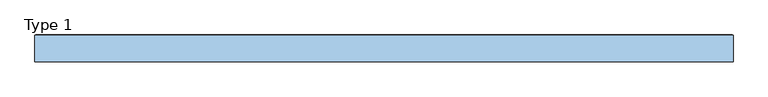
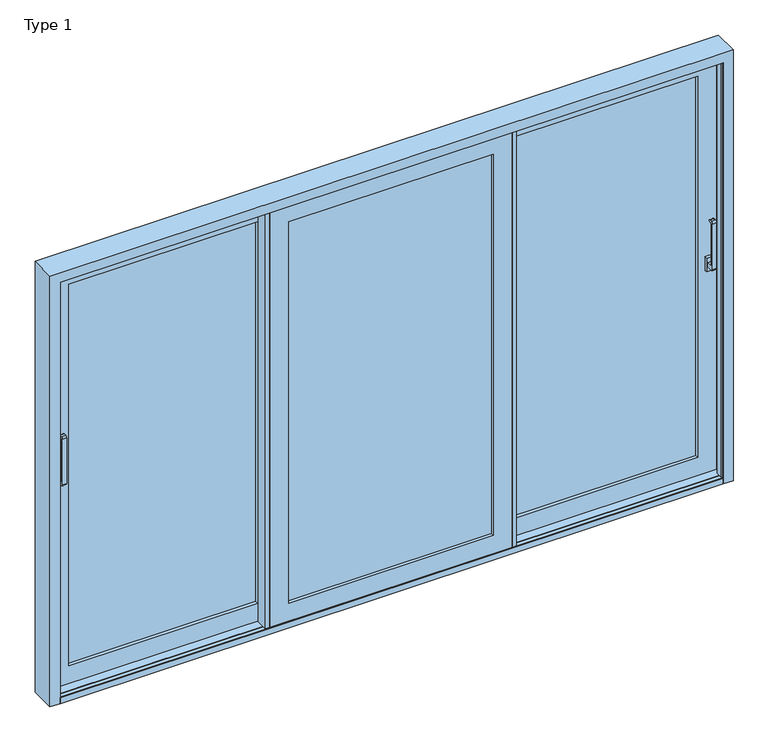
"""IFC4 building model written with IfcOpenShell, lengths in millimetres: window geometry, ETEM_E50_Triple_Lift_Sliding-Fixed-Sliding_FR : Type 1."""

from ifc_helpers import new_model, si_unit, point, frame, frame_2d, origin, place, context, project, spatial, polyline, circle_curve, trimmed, segment, composite_curve, outline, extrude, faceted_brep, source, transform, mapped, element, save


def type_1_401ada22(model_context):
    return source(origin(), model_context, "Body", "SolidModel", [
        extrude(outline(composite_curve([segment(polyline([(36.3481944, 1090.0), (4.7745096, 1090.0)]), True, "CONTINUOUS"), segment(trimmed(circle_curve(frame_2d((4.7745096, 1098.4263152)), 8.4263152), [point((4.7745096, 1090.0))], [point((-3.6518056, 1098.4263152))], False, "CARTESIAN"), True, "CONTINUOUS"), segment(polyline([(-3.6518056, 1098.4263152), (-3.6518056, 1331.5736848)]), True, "CONTINUOUS"), segment(trimmed(circle_curve(frame_2d((4.7745096, 1331.5736848)), 8.4263152), [point((-3.6518056, 1331.5736848))], [point((4.7745096, 1340.0))], False, "CARTESIAN"), True, "CONTINUOUS"), segment(polyline([(4.7745096, 1340.0), (16.3481944, 1340.0)]), True, "CONTINUOUS"), segment(trimmed(circle_curve(frame_2d((16.3481944, 1335.0)), 5.0), [point((16.3481944, 1340.0))], [point((16.3481944, 1330.0))], False, "CARTESIAN"), True, "CONTINUOUS"), segment(polyline([(16.3481944, 1330.0), (9.8837283, 1330.0)]), True, "CONTINUOUS"), segment(trimmed(circle_curve(frame_2d((9.8837283, 1326.4644661)), 3.5355339), [point((9.8837283, 1330.0))], [point((6.3481944, 1326.4644661))], True, "CARTESIAN"), True, "CONTINUOUS"), segment(polyline([(6.3481944, 1326.4644661), (6.3481944, 1113.5355339)]), True, "CONTINUOUS"), segment(trimmed(circle_curve(frame_2d((9.8837283, 1113.5355339)), 3.5355339), [point((6.3481944, 1113.5355339))], [point((9.8837283, 1110.0))], True, "CARTESIAN"), True, "CONTINUOUS"), segment(polyline([(9.8837283, 1110.0), (36.3481944, 1110.0), (36.3481944, 1090.0)]), True, "CONTINUOUS")], self_intersect=False)), frame((1559.999965, 0.0, 0.0), z_axis=(1.0, 0.0, 0.0), x_axis=(0.0, 1.0, 0.0)), (0.0, 0.0, 1.0), 20.0),
        extrude(outline(polyline([(1554.999965, 36.3481944), (1554.999965, 49.3481944), (1584.999965, 49.3481944), (1584.999965, 36.3481944), (1554.999965, 36.3481944)])), frame((0.0, 0.0, 1065.0), z_axis=(0.0, 0.0, 1.0), x_axis=(1.0, 0.0, 0.0)), (0.0, 0.0, 1.0), 70.0),
        extrude(outline(composite_curve([segment(polyline([(36.3481944, 1090.0), (4.7745096, 1090.0)]), True, "CONTINUOUS"), segment(trimmed(circle_curve(frame_2d((4.7745096, 1098.4263152)), 8.4263152), [point((4.7745096, 1090.0))], [point((-3.6518056, 1098.4263152))], False, "CARTESIAN"), True, "CONTINUOUS"), segment(polyline([(-3.6518056, 1098.4263152), (-3.6518056, 1331.5736848)]), True, "CONTINUOUS"), segment(trimmed(circle_curve(frame_2d((4.7745096, 1331.5736848)), 8.4263152), [point((-3.6518056, 1331.5736848))], [point((4.7745096, 1340.0))], False, "CARTESIAN"), True, "CONTINUOUS"), segment(polyline([(4.7745096, 1340.0), (16.3481944, 1340.0)]), True, "CONTINUOUS"), segment(trimmed(circle_curve(frame_2d((16.3481944, 1335.0)), 5.0), [point((16.3481944, 1340.0))], [point((16.3481944, 1330.0))], False, "CARTESIAN"), True, "CONTINUOUS"), segment(polyline([(16.3481944, 1330.0), (9.8837283, 1330.0)]), True, "CONTINUOUS"), segment(trimmed(circle_curve(frame_2d((9.8837283, 1326.4644661)), 3.5355339), [point((9.8837283, 1330.0))], [point((6.3481944, 1326.4644661))], True, "CARTESIAN"), True, "CONTINUOUS"), segment(polyline([(6.3481944, 1326.4644661), (6.3481944, 1113.5355339)]), True, "CONTINUOUS"), segment(trimmed(circle_curve(frame_2d((9.8837283, 1113.5355339)), 3.5355339), [point((6.3481944, 1113.5355339))], [point((9.8837283, 1110.0))], True, "CARTESIAN"), True, "CONTINUOUS"), segment(polyline([(9.8837283, 1110.0), (36.3481944, 1110.0), (36.3481944, 1090.0)]), True, "CONTINUOUS")], self_intersect=False)), frame((-1579.999965, 0.0, 0.0), z_axis=(1.0, 0.0, 0.0), x_axis=(0.0, 1.0, 0.0)), (0.0, 0.0, 1.0), 20.0),
        extrude(outline(polyline([(-1584.999965, 36.3481944), (-1584.999965, 49.3481944), (-1554.999965, 49.3481944), (-1554.999965, 36.3481944), (-1584.999965, 36.3481944)])), frame((0.0, 0.0, 1065.0), z_axis=(0.0, 0.0, 1.0), x_axis=(1.0, 0.0, 0.0)), (0.0, 0.0, 1.0), 70.0),
        faceted_brep([(514.5, 94.6481944, 2160.5), (514.5, 99.3481944, 2160.5), (514.5, 99.3481944, 29.970192), (514.5, 94.6481944, 29.970192), (1610.499965, 99.3481944, 2160.5), (1610.499965, 99.3481944, 29.970192), (606.0, 99.3481944, 121.470192), (1518.999965, 99.3481944, 121.470192), (1518.999965, 99.3481944, 2069.0), (606.0, 99.3481944, 2069.0), (1610.499965, 94.6481944, 29.970192), (1610.499965, 94.6481944, 2160.5), (543.7, 94.6481944, 2131.3), (1581.299965, 94.6481944, 2131.3), (1581.299965, 94.6481944, 59.170192), (543.7, 94.6481944, 59.170192), (543.7, 54.0481944, 2131.3), (543.7, 54.0481944, 59.170192), (1581.299965, 54.0481944, 59.170192), (514.5, 54.0481944, 2160.5), (1610.499965, 54.0481944, 2160.5), (1610.499965, 54.0481944, 29.970192), (514.5, 54.0481944, 29.970192), (1581.299965, 54.0481944, 2131.3), (514.5, 49.3481944, 2160.5), (514.5, 49.3481944, 29.970192), (1610.499965, 49.3481944, 29.970192), (1610.499965, 49.3481944, 2160.5), (606.0, 49.3481944, 2069.0), (1518.999965, 49.3481944, 2069.0), (1518.999965, 49.3481944, 121.470192), (606.0, 49.3481944, 121.470192)], [[[0, 1, 2, 3]], [[1, 4, 5, 2], [6, 7, 8, 9]], [[3, 2, 5, 10]], [[3, 10, 11, 0], [12, 13, 14, 15]], [[16, 12, 15, 17]], [[17, 15, 14, 18]], [[19, 20, 21, 22], [17, 18, 23, 16]], [[24, 19, 22, 25]], [[25, 22, 21, 26]], [[25, 26, 27, 24], [28, 29, 30, 31]], [[9, 28, 31, 6]], [[6, 31, 30, 7]], [[10, 5, 4, 11]], [[18, 14, 13, 23]], [[26, 21, 20, 27]], [[7, 30, 29, 8]], [[11, 4, 1, 0]], [[23, 13, 12, 16]], [[27, 20, 19, 24]], [[8, 29, 28, 9]]]),
        extrude(outline(polyline([(606.0, -15.6518056), (585.5, -15.6518056), (585.5, 45.3481944), (606.0, 45.3481944), (606.0, -15.6518056)])), frame((0.0, 0.0, 29.970192), z_axis=(0.0, 0.0, 1.0), x_axis=(1.0, 0.0, 0.0)), (0.0, 0.0, 1.0), 2130.529808),
        extrude(outline(polyline([(494.0, 99.3481944), (514.5, 99.3481944), (514.5, 38.3481944), (494.0, 38.3481944), (494.0, 99.3481944)])), frame((0.0, 0.0, 29.970192), z_axis=(0.0, 0.0, 1.0), x_axis=(1.0, 0.0, 0.0)), (0.0, 0.0, 1.0), 2130.529808),
        extrude(outline(polyline([(606.0, 91.3481944), (1518.999965, 91.3481944), (1518.999965, 86.3481944), (606.0, 86.3481944), (606.0, 91.3481944)])), frame((0.0, 0.0, 121.470192), z_axis=(0.0, 0.0, 1.0), x_axis=(1.0, 0.0, 0.0)), (0.0, 0.0, 1.0), 1947.529808),
        extrude(outline(polyline([(606.0, 70.3481944), (1518.999965, 70.3481944), (1518.999965, 65.3481944), (606.0, 65.3481944), (606.0, 70.3481944)])), frame((0.0, 0.0, 121.470192), z_axis=(0.0, 0.0, 1.0), x_axis=(1.0, 0.0, 0.0)), (0.0, 0.0, 1.0), 1947.529808),
        faceted_brep([(-606.0, 49.3481944, 2069.0), (-606.0, 99.3481944, 2069.0), (-606.0, 99.3481944, 121.470192), (-606.0, 49.3481944, 121.470192), (-1518.999965, 99.3481944, 121.470192), (-1518.999965, 49.3481944, 121.470192), (-1610.499965, 99.3481944, 29.970192), (-1610.499965, 99.3481944, 2160.5), (-514.5, 99.3481944, 2160.5), (-514.5, 99.3481944, 29.970192), (-1518.999965, 99.3481944, 2069.0), (-1518.999965, 49.3481944, 2069.0), (-514.5, 49.3481944, 29.970192), (-514.5, 49.3481944, 2160.5), (-1610.499965, 49.3481944, 2160.5), (-1610.499965, 49.3481944, 29.970192), (-514.5, 54.0481944, 2160.5), (-514.5, 54.0481944, 29.970192), (-1610.499965, 54.0481944, 29.970192), (-1610.499965, 54.0481944, 2160.5), (-543.7, 54.0481944, 59.170192), (-543.7, 54.0481944, 2131.3), (-1581.299965, 54.0481944, 2131.3), (-1581.299965, 54.0481944, 59.170192), (-543.7, 94.6481944, 2131.3), (-543.7, 94.6481944, 59.170192), (-1581.299965, 94.6481944, 59.170192), (-1581.299965, 94.6481944, 2131.3), (-514.5, 94.6481944, 29.970192), (-514.5, 94.6481944, 2160.5), (-1610.499965, 94.6481944, 2160.5), (-1610.499965, 94.6481944, 29.970192)], [[[0, 1, 2, 3]], [[3, 2, 4, 5]], [[6, 7, 8, 9], [2, 1, 10, 4]], [[5, 4, 10, 11]], [[12, 13, 14, 15], [5, 11, 0, 3]], [[16, 13, 12, 17]], [[17, 12, 15, 18]], [[18, 15, 14, 19]], [[18, 19, 16, 17], [20, 21, 22, 23]], [[24, 21, 20, 25]], [[25, 20, 23, 26]], [[26, 23, 22, 27]], [[28, 29, 30, 31], [26, 27, 24, 25]], [[8, 29, 28, 9]], [[9, 28, 31, 6]], [[6, 31, 30, 7]], [[11, 10, 1, 0]], [[19, 14, 13, 16]], [[27, 22, 21, 24]], [[7, 30, 29, 8]]]),
        extrude(outline(polyline([(-494.0, 26.3481944), (494.0, 26.3481944), (494.0, 21.3481944), (-494.0, 21.3481944), (-494.0, 26.3481944)])), frame((0.0, 0.0, 121.470192), z_axis=(0.0, 0.0, 1.0), x_axis=(1.0, 0.0, 0.0)), (0.0, 0.0, 1.0), 1947.529808),
        extrude(outline(polyline([(-494.0, 5.3481944), (494.0, 5.3481944), (494.0, 0.3481944), (-494.0, 0.3481944), (-494.0, 5.3481944)])), frame((0.0, 0.0, 121.470192), z_axis=(0.0, 0.0, 1.0), x_axis=(1.0, 0.0, 0.0)), (0.0, 0.0, 1.0), 1947.529808),
        faceted_brep([(494.0, -15.6518056, 2069.0), (494.0, 34.3481944, 2069.0), (494.0, 34.3481944, 121.470192), (494.0, -15.6518056, 121.470192), (-494.0, 34.3481944, 121.470192), (-494.0, -15.6518056, 121.470192), (-585.5, 34.3481944, 29.970192), (-585.5, 34.3481944, 2160.5), (585.5, 34.3481944, 2160.5), (585.5, 34.3481944, 29.970192), (-494.0, 34.3481944, 2069.0), (-494.0, -15.6518056, 2069.0), (585.5, -15.6518056, 29.970192), (585.5, -15.6518056, 2160.5), (-585.5, -15.6518056, 2160.5), (-585.5, -15.6518056, 29.970192), (585.5, -10.9518056, 2160.5), (585.5, -10.9518056, 29.970192), (-585.5, -10.9518056, 29.970192), (-585.5, -10.9518056, 2160.5), (556.3, -10.9518056, 59.170192), (556.3, -10.9518056, 2131.3), (-556.3, -10.9518056, 2131.3), (-556.3, -10.9518056, 59.170192), (556.3, 29.6481944, 2131.3), (556.3, 29.6481944, 59.170192), (-556.3, 29.6481944, 59.170192), (-556.3, 29.6481944, 2131.3), (585.5, 29.6481944, 29.970192), (585.5, 29.6481944, 2160.5), (-585.5, 29.6481944, 2160.5), (-585.5, 29.6481944, 29.970192)], [[[0, 1, 2, 3]], [[3, 2, 4, 5]], [[6, 7, 8, 9], [2, 1, 10, 4]], [[5, 4, 10, 11]], [[12, 13, 14, 15], [5, 11, 0, 3]], [[16, 13, 12, 17]], [[17, 12, 15, 18]], [[18, 15, 14, 19]], [[18, 19, 16, 17], [20, 21, 22, 23]], [[24, 21, 20, 25]], [[25, 20, 23, 26]], [[26, 23, 22, 27]], [[28, 29, 30, 31], [26, 27, 24, 25]], [[8, 29, 28, 9]], [[9, 28, 31, 6]], [[6, 31, 30, 7]], [[11, 10, 1, 0]], [[19, 14, 13, 16]], [[27, 22, 21, 24]], [[7, 30, 29, 8]]]),
        faceted_brep([(1601.5, 105.0, 0.0), (1601.5, 101.4, 0.0), (1601.5, 101.4, 2151.5), (1601.5, 105.0, 2151.5), (-1601.5, 105.0, 0.0), (-1646.5, 105.0, 0.0), (-1646.5, 105.0, 2196.5), (1646.5, 105.0, 2196.5), (1646.5, 105.0, 0.0), (-1601.5, 105.0, 2151.5), (-1628.2, 101.4, 0.0), (-1601.5, 101.4, 0.0), (-1601.5, 101.4, 2151.5), (1628.2, 101.4, 0.0), (1628.2, 101.4, 2178.2), (-1628.2, 101.4, 2178.2), (-1650.0, 103.5481944, 0.0), (-1650.0, -21.2518056, 0.0), (-1650.0, -21.2518056, 2200.0), (-1650.0, 103.5481944, 2200.0), (1650.0, -21.2518056, 0.0), (1650.0, 103.5481944, 0.0), (1650.0, 103.5481944, 2200.0), (1650.0, -21.2518056, 2200.0), (1628.2, 78.8481944, 0.0), (1628.2, 78.8481944, 2178.2), (-1628.2, 78.8481944, 2178.2), (-1628.2, 78.8481944, 0.0), (1609.5, 78.8481944, 0.0), (1609.5, 90.3481944, 0.0), (1609.5, 90.3481944, 2159.5), (1609.5, 78.8481944, 2159.5), (1601.5, 90.3481944, 0.0), (1601.5, 58.3481944, 0.0), (1601.5, 58.3481944, 2151.5), (1601.5, 90.3481944, 2151.5), (1609.5, 58.3481944, 0.0), (1609.5, 69.8481944, 0.0), (1609.5, 69.8481944, 2159.5), (1609.5, 58.3481944, 2159.5), (1628.2, 69.8481944, 0.0), (1628.2, 13.8481944, 0.0), (1628.2, 13.8481944, 2178.2), (1628.2, 69.8481944, 2178.2), (1609.5, 13.8481944, 0.0), (1609.5, 25.3481944, 0.0), (1609.5, 25.3481944, 2159.5), (1609.5, 13.8481944, 2159.5), (1601.5, 25.3481944, 0.0), (1601.5, -6.6518056, 0.0), (1601.5, -6.6518056, 2151.5), (1601.5, 25.3481944, 2151.5), (1609.5, -6.6518056, 0.0), (1609.5, 4.8481944, 0.0), (1609.5, 4.8481944, 2159.5), (1609.5, -6.6518056, 2159.5), (1628.2, 4.8481944, 0.0), (1628.2, -17.6518056, 0.0), (1628.2, -17.6518056, 2178.2), (1628.2, 4.8481944, 2178.2), (1601.5, -17.6518056, 0.0), (1601.5, -21.2518056, 0.0), (1601.5, -21.2518056, 2151.5), (1601.5, -17.6518056, 2151.5), (-1609.5, 90.3481944, 0.0), (-1609.5, 78.8481944, 0.0), (-1609.5, 78.8481944, 2159.5), (-1609.5, 90.3481944, 2159.5), (-1601.5, 58.3481944, 0.0), (-1601.5, 90.3481944, 0.0), (-1601.5, 90.3481944, 2151.5), (-1601.5, 58.3481944, 2151.5), (-1609.5, 69.8481944, 0.0), (-1609.5, 58.3481944, 0.0), (-1609.5, 58.3481944, 2159.5), (-1609.5, 69.8481944, 2159.5), (-1628.2, 13.8481944, 0.0), (-1628.2, 69.8481944, 0.0), (-1628.2, 69.8481944, 2178.2), (-1628.2, 13.8481944, 2178.2), (-1609.5, 25.3481944, 0.0), (-1609.5, 13.8481944, 0.0), (-1609.5, 13.8481944, 2159.5), (-1609.5, 25.3481944, 2159.5), (-1601.5, -6.6518056, 0.0), (-1601.5, 25.3481944, 0.0), (-1601.5, 25.3481944, 2151.5), (-1601.5, -6.6518056, 2151.5), (-1609.5, 4.8481944, 0.0), (-1609.5, -6.6518056, 0.0), (-1609.5, -6.6518056, 2159.5), (-1609.5, 4.8481944, 2159.5), (-1628.2, -17.6518056, 0.0), (-1628.2, 4.8481944, 0.0), (-1628.2, 4.8481944, 2178.2), (-1628.2, -17.6518056, 2178.2), (-1601.5, -21.2518056, 0.0), (-1601.5, -17.6518056, 0.0), (-1601.5, -17.6518056, 2151.5), (-1601.5, -21.2518056, 2151.5), (1646.5, 103.5481944, 0.0), (1646.5, 103.5481944, 2196.5), (-1646.5, 103.5481944, 0.0), (-1646.5, 103.5481944, 2196.5)], [[[0, 1, 2, 3]], [[4, 5, 6, 7, 8, 0, 3, 9]], [[10, 11, 12, 2, 1, 13, 14, 15]], [[16, 17, 18, 19]], [[20, 21, 22, 23]], [[11, 4, 9, 12]], [[24, 25, 14, 13]], [[10, 15, 26, 27]], [[28, 29, 30, 31]], [[32, 33, 34, 35]], [[36, 37, 38, 39]], [[40, 41, 42, 43]], [[44, 45, 46, 47]], [[48, 49, 50, 51]], [[52, 53, 54, 55]], [[56, 57, 58, 59]], [[60, 61, 62, 63]], [[64, 65, 66, 67]], [[68, 69, 70, 71]], [[72, 73, 74, 75]], [[76, 77, 78, 79]], [[80, 81, 82, 83]], [[84, 85, 86, 87]], [[88, 89, 90, 91]], [[92, 93, 94, 95]], [[96, 97, 98, 99]], [[3, 2, 12, 9]], [[23, 22, 19, 18]], [[14, 25, 26, 15]], [[31, 30, 67, 66]], [[35, 34, 71, 70]], [[39, 38, 75, 74]], [[43, 42, 79, 78]], [[47, 46, 83, 82]], [[51, 50, 87, 86]], [[55, 54, 91, 90]], [[59, 58, 95, 94]], [[63, 62, 99, 98]], [[100, 8, 7, 101]], [[5, 102, 103, 6]], [[101, 7, 6, 103]], [[61, 60, 57, 56, 53, 52, 49, 48, 45, 44, 41, 40, 37, 36, 33, 32, 29, 28, 24, 13, 1, 0, 8, 100, 21, 20]], [[22, 21, 100, 101, 103, 102, 16, 19]], [[96, 17, 16, 102, 5, 4, 11, 10, 27, 65, 64, 69, 68, 73, 72, 77, 76, 81, 80, 85, 84, 89, 88, 93, 92, 97]], [[17, 96, 99, 62, 61, 20, 23, 18]], [[65, 27, 26, 25, 24, 28, 31, 66]], [[69, 64, 67, 30, 29, 32, 35, 70]], [[73, 68, 71, 34, 33, 36, 39, 74]], [[77, 72, 75, 38, 37, 40, 43, 78]], [[81, 76, 79, 42, 41, 44, 47, 82]], [[85, 80, 83, 46, 45, 48, 51, 86]], [[89, 84, 87, 50, 49, 52, 55, 90]], [[93, 88, 91, 54, 53, 56, 59, 94]], [[97, 92, 95, 58, 57, 60, 63, 98]]]),
        extrude(outline(polyline([(-1518.999965, 91.3481944), (-606.0, 91.3481944), (-606.0, 86.3481944), (-1518.999965, 86.3481944), (-1518.999965, 91.3481944)])), frame((0.0, 0.0, 121.470192), z_axis=(0.0, 0.0, 1.0), x_axis=(1.0, 0.0, 0.0)), (0.0, 0.0, 1.0), 1947.529808),
        extrude(outline(polyline([(-1518.999965, 70.3481944), (-606.0, 70.3481944), (-606.0, 65.3481944), (-1518.999965, 65.3481944), (-1518.999965, 70.3481944)])), frame((0.0, 0.0, 121.470192), z_axis=(0.0, 0.0, 1.0), x_axis=(1.0, 0.0, 0.0)), (0.0, 0.0, 1.0), 1947.529808),
        extrude(outline(polyline([(-585.5, -15.6518056), (-606.0, -15.6518056), (-606.0, 45.3481944), (-585.5, 45.3481944), (-585.5, -15.6518056)])), frame((0.0, 0.0, 29.970192), z_axis=(0.0, 0.0, 1.0), x_axis=(1.0, 0.0, 0.0)), (0.0, 0.0, 1.0), 2130.529808),
        extrude(outline(polyline([(-494.0, 99.3481944), (-494.0, 38.3481944), (-514.5, 38.3481944), (-514.5, 99.3481944), (-494.0, 99.3481944)])), frame((0.0, 0.0, 29.970192), z_axis=(0.0, 0.0, 1.0), x_axis=(1.0, 0.0, 0.0)), (0.0, 0.0, 1.0), 2130.529808),
        faceted_brep([(-1601.5, -21.2518056, 0.0), (-1601.5, -17.4518056, 0.0), (-1628.2, -17.4518056, 0.0), (-1628.2, 4.8481944, 0.0), (-1609.5, 4.8481944, 0.0), (-1609.5, -6.6518056, 0.0), (-1601.5, -6.6518056, 0.0), (-1601.5, 25.3481944, 0.0), (-1609.5, 25.3481944, 0.0), (-1609.5, 13.8481944, 0.0), (-1628.2, 13.8481944, 0.0), (-1628.2, 69.8481944, 0.0), (-1609.5, 69.8481944, 0.0), (-1609.5, 58.3481944, 0.0), (-1601.5, 58.3481944, 0.0), (-1601.5, 90.3481944, 0.0), (-1609.5, 90.3481944, 0.0), (-1609.5, 78.8481944, 0.0), (-1628.2, 78.8481944, 0.0), (-1628.2, 100.7481944, 0.0), (1628.2, 100.7481944, 0.0), (1628.2, 78.8481944, 0.0), (1609.5, 78.8481944, 0.0), (1609.5, 90.3481944, 0.0), (1601.5, 90.3481944, 0.0), (1601.5, 58.3481944, 0.0), (1609.5, 58.3481944, 0.0), (1609.5, 69.8481944, 0.0), (1628.2, 69.8481944, 0.0), (1628.2, 13.8481944, 0.0), (1609.5, 13.8481944, 0.0), (1609.5, 25.3481944, 0.0), (1601.5, 25.3481944, 0.0), (1601.5, -6.6518056, 0.0), (1609.5, -6.6518056, 0.0), (1609.5, 4.8481944, 0.0), (1628.2, 4.8481944, 0.0), (1628.2, -17.4518056, 0.0), (1601.5, -17.4518056, 0.0), (1601.5, -21.2518056, 0.0), (-1601.5, -21.2518056, 29.970192), (1601.5, -21.2518056, 29.970192), (-1601.5, -17.4518056, 29.970192), (1601.5, -17.4518056, 29.970192), (-1601.5, -17.4518056, 25.0), (1601.5, -17.4518056, 25.0), (-1628.2, -17.4518056, 25.0), (1628.2, -17.4518056, 25.0), (1628.2, 4.8481944, 25.0), (1609.5, 4.8481944, 25.0), (1609.5, -6.6518056, 25.0), (1601.5, -6.6518056, 25.0), (1601.5, 6.8481944, 25.0), (-1601.5, 6.8481944, 25.0), (-1601.5, -6.6518056, 25.0), (-1609.5, -6.6518056, 25.0), (-1609.5, 4.8481944, 25.0), (-1628.2, 4.8481944, 25.0), (-1601.5, 6.8481944, 21.1999997), (1601.5, 6.8481944, 21.1999997), (-1601.5, 11.8481944, 21.1999997), (1601.5, 11.8481944, 21.1999997), (-1601.5, 11.8481944, 25.0), (1601.5, 11.8481944, 25.0), (-1601.5, 25.3481944, 25.0), (1601.5, 25.3481944, 25.0), (1609.5, 25.3481944, 25.0), (1609.5, 13.8481944, 25.0), (1628.2, 13.8481944, 25.0), (1628.2, 69.8481944, 25.0), (1609.5, 69.8481944, 25.0), (1609.5, 58.3481944, 25.0), (1601.5, 58.3481944, 25.0), (1601.5, 71.8481944, 25.0), (-1601.5, 71.8481944, 25.0), (-1601.5, 58.3481944, 25.0), (-1609.5, 58.3481944, 25.0), (-1609.5, 69.8481944, 25.0), (-1628.2, 69.8481944, 25.0), (-1628.2, 13.8481944, 25.0), (-1609.5, 13.8481944, 25.0), (-1609.5, 25.3481944, 25.0), (-1601.5, 71.8481944, 21.1999997), (1601.5, 71.8481944, 21.1999997), (-1601.5, 76.8481944, 21.1999997), (1601.5, 76.8481944, 21.1999997), (-1601.5, 76.8481944, 25.0), (1601.5, 76.8481944, 25.0), (-1601.5, 90.3481944, 25.0), (1601.5, 90.3481944, 25.0), (1609.5, 90.3481944, 25.0), (1609.5, 78.8481944, 25.0), (1628.2, 78.8481944, 25.0), (1628.2, 100.7481944, 25.0), (-1628.2, 100.7481944, 25.0), (-1628.2, 78.8481944, 25.0), (-1609.5, 78.8481944, 25.0), (-1609.5, 90.3481944, 25.0)], [[[0, 1, 2, 3, 4, 5, 6, 7, 8, 9, 10, 11, 12, 13, 14, 15, 16, 17, 18, 19, 20, 21, 22, 23, 24, 25, 26, 27, 28, 29, 30, 31, 32, 33, 34, 35, 36, 37, 38, 39]], [[40, 0, 39, 41]], [[42, 40, 41, 43]], [[44, 42, 43, 45]], [[46, 44, 45, 47, 48, 49, 50, 51, 52, 53, 54, 55, 56, 57]], [[58, 53, 52, 59]], [[60, 58, 59, 61]], [[62, 60, 61, 63]], [[64, 62, 63, 65, 66, 67, 68, 69, 70, 71, 72, 73, 74, 75, 76, 77, 78, 79, 80, 81]], [[82, 74, 73, 83]], [[84, 82, 83, 85]], [[86, 84, 85, 87]], [[88, 86, 87, 89, 90, 91, 92, 93, 94, 95, 96, 97]], [[19, 94, 93, 20]], [[44, 1, 0, 40, 42]], [[1, 44, 46, 2]], [[2, 46, 57, 3]], [[3, 57, 56, 4]], [[4, 56, 55, 5]], [[5, 55, 54, 6]], [[6, 54, 53, 58, 60, 62, 64, 7]], [[7, 64, 81, 8]], [[8, 81, 80, 9]], [[9, 80, 79, 10]], [[10, 79, 78, 11]], [[11, 78, 77, 12]], [[12, 77, 76, 13]], [[13, 76, 75, 14]], [[14, 75, 74, 82, 84, 86, 88, 15]], [[15, 88, 97, 16]], [[16, 97, 96, 17]], [[17, 96, 95, 18]], [[18, 95, 94, 19]], [[38, 45, 43, 41, 39]], [[45, 38, 37, 47]], [[47, 37, 36, 48]], [[48, 36, 35, 49]], [[49, 35, 34, 50]], [[50, 34, 33, 51]], [[51, 33, 32, 65, 63, 61, 59, 52]], [[65, 32, 31, 66]], [[66, 31, 30, 67]], [[67, 30, 29, 68]], [[68, 29, 28, 69]], [[69, 28, 27, 70]], [[70, 27, 26, 71]], [[71, 26, 25, 72]], [[72, 25, 24, 89, 87, 85, 83, 73]], [[89, 24, 23, 90]], [[90, 23, 22, 91]], [[91, 22, 21, 92]], [[92, 21, 20, 93]]]),
    ])


if __name__ == "__main__":
    model = new_model("IFC4")
    model_context = context("Model", 3, world=origin())
    ifc_project = project(units=[si_unit("LENGTHUNIT", "METRE", prefix="MILLI")], contexts=[model_context])
    site = spatial("IfcSite", under=ifc_project)
    building = spatial("IfcBuilding", under=site)
    placement = place(None, origin())
    type_1_shape = type_1_401ada22(model_context)
    element("IfcWindow", 1, ObjectType="ETEM_E50_Triple_Lift_Sliding-Fixed-Sliding_FR : Type 1", at=placement, inside=building, context=model_context, shape_type="MappedRepresentation", body=[
        mapped(type_1_shape, transform((0.0, 0.0, 0.0), x_axis=(1.0, 0.0, 0.0), y_axis=(0.0, 1.0, 0.0), z_axis=(0.0, 0.0, 1.0))),
    ])
    save(model, "model.ifc")
